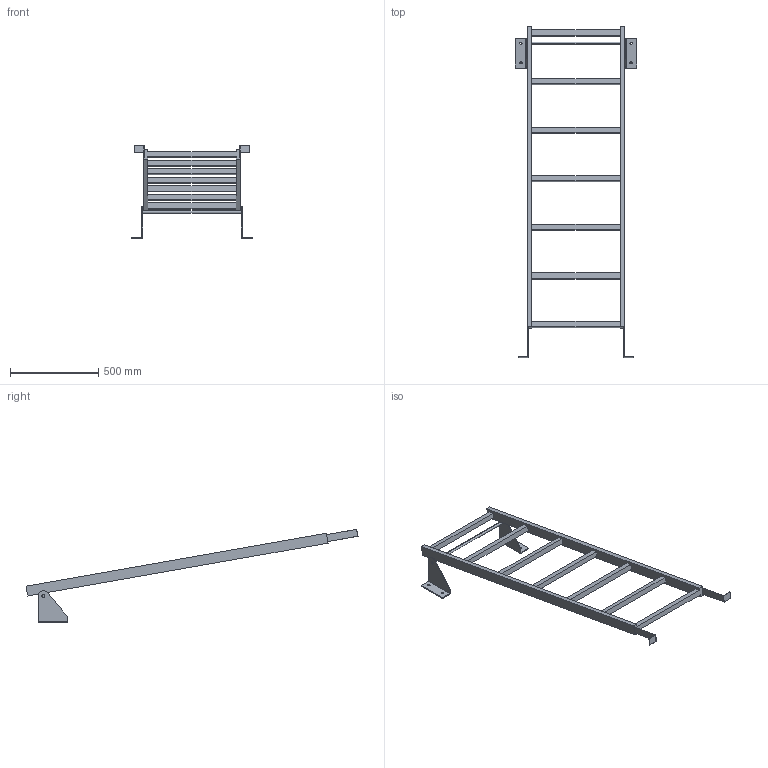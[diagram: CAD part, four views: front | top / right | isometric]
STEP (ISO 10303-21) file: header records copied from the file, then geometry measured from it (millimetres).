
FILE_DESCRIPTION((''),'2;1');
FILE_NAME('52309758','2024-10-17T08:55:49',('wep'),('HUBER SE'),'CREO PARAMETRIC BY PTC INC, 2022162','CREO PARAMETRIC BY PTC INC, 2022162','');
FILE_SCHEMA(('AUTOMOTIVE_DESIGN { 1 0 10303 214 1 1 1 1 }'));
Length unit declared in the file: millimetre
Products named in the file (1): 52309758
Bounding box: 690 x 1883.5 x 529.55 mm (x, y, z)
Volume: 8585302.1 mm3; surface area: 1178718.7 mm2
Topology: 4 solids, 4 shells, 86 faces, 228 edges, 152 vertices
Faces by surface type: plane 70, cylinder 16
Entity records: 3255 total; most frequent: CARTESIAN_POINT 468, ORIENTED_EDGE 456, DIRECTION 432, EDGE_CURVE 228, VECTOR 196, LINE 196, VERTEX_POINT 152, AXIS2_PLACEMENT_3D 118
